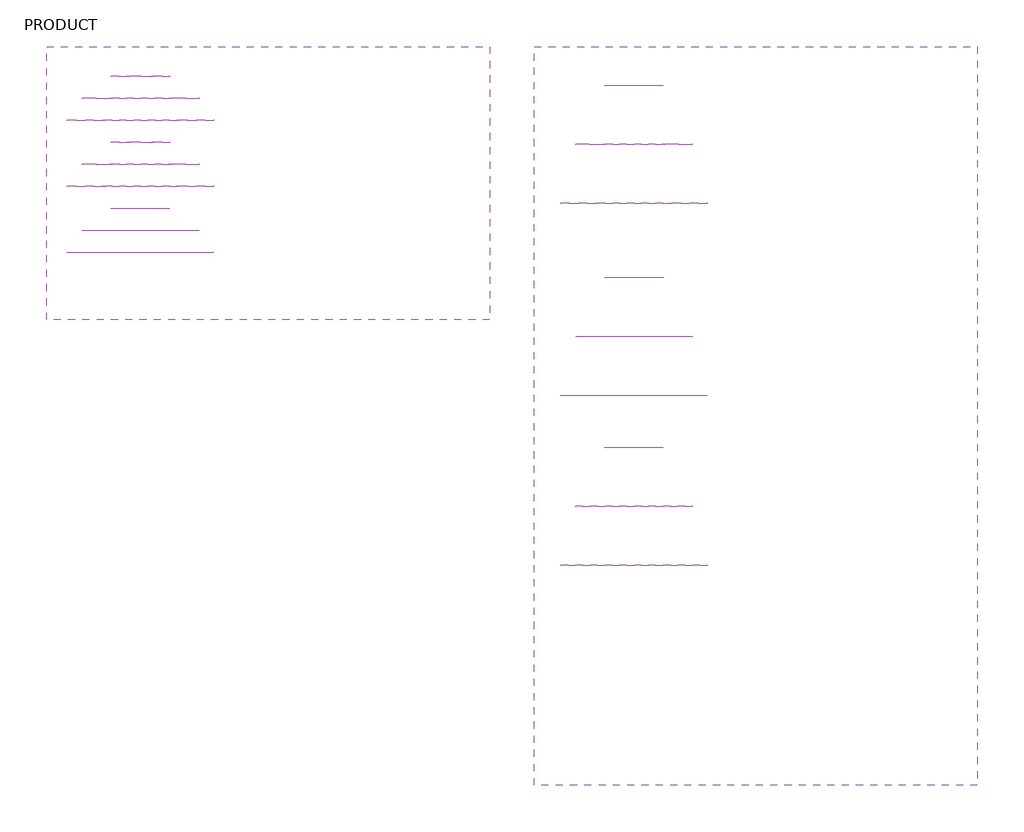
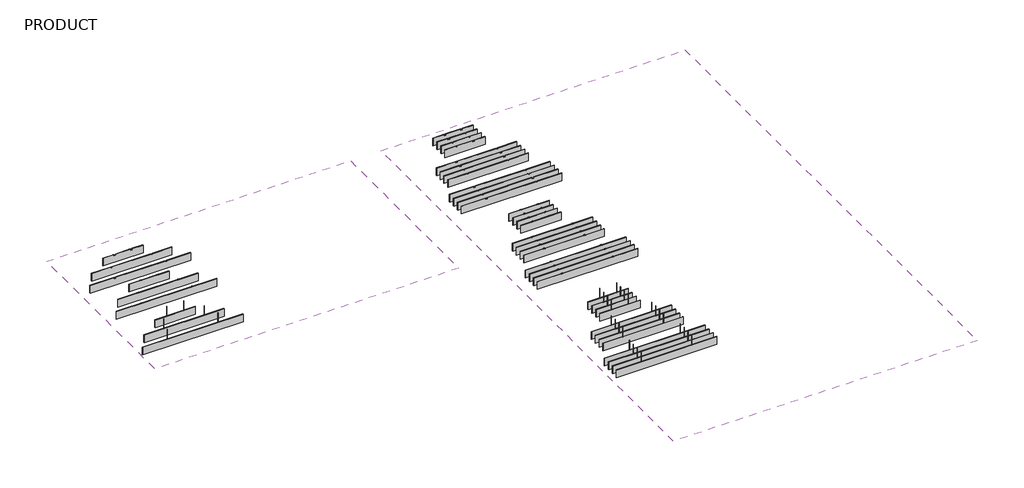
# One storey: 18 proxies, 2 coverings.
"""IFC4 building model written with IfcOpenShell, lengths in millimetres."""

from ifc_helpers import new_model, si_unit, frame, origin, place, context, project, spatial, polyline, outline, extrude, transform, mapped, element, save
from components import specialty_equipment_96a710cc, specialty_equipment_ee209cf9, specialty_equipment_30a90bc0, specialty_equipment_bbb3698f, specialty_equipment_b684998a, specialty_equipment_2d2efd5c, specialty_equipment_c981e245, specialty_equipment_1269500b, specialty_equipment_be68d2b4, specialty_equipment_922f5293, specialty_equipment_3e05f064, specialty_equipment_4f9f5038, proxy_0f068731, proxy_e42677c3, proxy_46c5f0b4, proxy_e3adda97, proxy_471073de, proxy_cfbe7a46

model = new_model("IFC4")

# Units and contexts
model_context = context("Model", 3, world=origin())
ifc_project = project(units=[si_unit("LENGTHUNIT", "METRE", prefix="MILLI")], contexts=[model_context])

# Site, building, storey
site = spatial("IfcSite", under=ifc_project)
building = spatial("IfcBuilding", under=site)
storey = spatial("IfcBuildingStorey", under=building, Name="PRODUCT", Elevation=0.0)

# Proxies
placement = place(None, origin())
specialty_equipment_shape = specialty_equipment_96a710cc(model_context)
element("IfcBuildingElementProxy", 1, Name="SE_TIMBER BAFFLE_SINGLE_FB_TURF : 119\" - FELTLOCK", ObjectType="SE_TIMBER BAFFLE_SINGLE_FB_TURF : 119\" - FELTLOCK", at=placement, inside=storey, context=model_context, shape_type="MappedRepresentation", body=[
    mapped(specialty_equipment_shape, transform((-16787.9567466, 15606.4842447, 3048.0), x_axis=(1.0, 0.0, 0.0), y_axis=(0.0, -1.0, 0.0), z_axis=(0.0, 0.0, -1.0))),
])
specialty_equipment_2_shape = specialty_equipment_ee209cf9(model_context)
element("IfcBuildingElementProxy", 2, Name="SE_TIMBER BAFFLE_SINGLE_FB_TURF : 95\" - FELTLOCK", ObjectType="SE_TIMBER BAFFLE_SINGLE_FB_TURF : 95\" - FELTLOCK", at=placement, inside=storey, context=model_context, shape_type="MappedRepresentation", body=[
    mapped(specialty_equipment_2_shape, transform((-16787.9567466, 16060.6892056, 3048.0), x_axis=(1.0, 0.0, 0.0), y_axis=(0.0, -1.0, 0.0), z_axis=(0.0, 0.0, -1.0))),
])
specialty_equipment_3_shape = specialty_equipment_30a90bc0(model_context)
element("IfcBuildingElementProxy", 3, Name="SE_TIMBER BAFFLE_SINGLE_FB_TURF : 47.5\" - FELTLOCK", ObjectType="SE_TIMBER BAFFLE_SINGLE_FB_TURF : 47.5\" - FELTLOCK", at=placement, inside=storey, context=model_context, shape_type="MappedRepresentation", body=[
    mapped(specialty_equipment_3_shape, transform((-16787.9567466, 16514.8941665, 3048.0), x_axis=(1.0, 0.0, 0.0), y_axis=(0.0, -1.0, 0.0), z_axis=(0.0, 0.0, -1.0))),
])
specialty_equipment_4_shape = specialty_equipment_bbb3698f(model_context)
element("IfcBuildingElementProxy", 4, Name="SE_TIMBER BAFFLE_SINGLE_FB_TURF : 119\" - GRIDLOCK", ObjectType="SE_TIMBER BAFFLE_SINGLE_FB_TURF : 119\" - GRIDLOCK", at=placement, inside=storey, context=model_context, shape_type="MappedRepresentation", body=[
    mapped(specialty_equipment_4_shape, transform((-16787.9567466, 14243.8693621, 3048.0), x_axis=(1.0, 0.0, 0.0), y_axis=(0.0, -1.0, 0.0), z_axis=(0.0, 0.0, -1.0))),
])
specialty_equipment_5_shape = specialty_equipment_b684998a(model_context)
element("IfcBuildingElementProxy", 5, Name="SE_TIMBER BAFFLE_SINGLE_FB_TURF : 95\" - GRIDLOCK", ObjectType="SE_TIMBER BAFFLE_SINGLE_FB_TURF : 95\" - GRIDLOCK", at=placement, inside=storey, context=model_context, shape_type="MappedRepresentation", body=[
    mapped(specialty_equipment_5_shape, transform((-16787.9567466, 14698.074323, 3048.0), x_axis=(1.0, 0.0, 0.0), y_axis=(0.0, -1.0, 0.0), z_axis=(0.0, 0.0, -1.0))),
])
specialty_equipment_6_shape = specialty_equipment_2d2efd5c(model_context)
element("IfcBuildingElementProxy", 6, Name="SE_TIMBER BAFFLE_SINGLE_FB_TURF : 47.5\" - GRIDLOCK", ObjectType="SE_TIMBER BAFFLE_SINGLE_FB_TURF : 47.5\" - GRIDLOCK", at=placement, inside=storey, context=model_context, shape_type="MappedRepresentation", body=[
    mapped(specialty_equipment_6_shape, transform((-16787.9567466, 15152.2792838, 3048.0), x_axis=(1.0, 0.0, 0.0), y_axis=(0.0, -1.0, 0.0), z_axis=(0.0, 0.0, -1.0))),
])
specialty_equipment_7_shape = specialty_equipment_c981e245(model_context)
element("IfcBuildingElementProxy", 7, Name="SE_TIMBER BAFFLE_MULTI-SYSTEM_FB_TURF : 119\" - FELTLOCK", ObjectType="SE_TIMBER BAFFLE_MULTI-SYSTEM_FB_TURF : 119\" - FELTLOCK", at=placement, inside=storey, context=model_context, shape_type="MappedRepresentation", body=[
    mapped(specialty_equipment_7_shape, transform((-6612.6834684, 14503.8594655, 3048.0), x_axis=(1.0, 0.0, 0.0), y_axis=(0.0, -1.0, 0.0), z_axis=(0.0, 0.0, -1.0))),
])
specialty_equipment_8_shape = specialty_equipment_1269500b(model_context)
element("IfcBuildingElementProxy", 8, Name="SE_TIMBER BAFFLE_MULTI-SYSTEM_FB_TURF : 95\" - FELTLOCK", ObjectType="SE_TIMBER BAFFLE_MULTI-SYSTEM_FB_TURF : 95\" - FELTLOCK", at=placement, inside=storey, context=model_context, shape_type="MappedRepresentation", body=[
    mapped(specialty_equipment_8_shape, transform((-6612.6834684, 15720.0644263, 3048.0), x_axis=(1.0, 0.0, 0.0), y_axis=(0.0, -1.0, 0.0), z_axis=(0.0, 0.0, -1.0))),
])
specialty_equipment_9_shape = specialty_equipment_be68d2b4(model_context)
element("IfcBuildingElementProxy", 9, Name="SE_TIMBER BAFFLE_MULTI-SYSTEM_FB_TURF : 47.5\" - FELTLOCK", ObjectType="SE_TIMBER BAFFLE_MULTI-SYSTEM_FB_TURF : 47.5\" - FELTLOCK", at=placement, inside=storey, context=model_context, shape_type="MappedRepresentation", body=[
    mapped(specialty_equipment_9_shape, transform((-6612.6834684, 16936.2693872, 3048.0), x_axis=(1.0, 0.0, 0.0), y_axis=(0.0, -1.0, 0.0), z_axis=(0.0, 0.0, -1.0))),
])
specialty_equipment_10_shape = specialty_equipment_922f5293(model_context)
element("IfcBuildingElementProxy", 10, Name="SE_TIMBER BAFFLE_MULTI-SYSTEM_FB_TURF : 119\" - GRIDLOCK", ObjectType="SE_TIMBER BAFFLE_MULTI-SYSTEM_FB_TURF : 119\" - GRIDLOCK", at=placement, inside=storey, context=model_context, shape_type="MappedRepresentation", body=[
    mapped(specialty_equipment_10_shape, transform((-6612.6834684, 10541.4594655, 3048.0), x_axis=(1.0, 0.0, 0.0), y_axis=(0.0, -1.0, 0.0), z_axis=(0.0, 0.0, -1.0))),
])
specialty_equipment_11_shape = specialty_equipment_3e05f064(model_context)
element("IfcBuildingElementProxy", 11, Name="SE_TIMBER BAFFLE_MULTI-SYSTEM_FB_TURF : 95\" - GRIDLOCK", ObjectType="SE_TIMBER BAFFLE_MULTI-SYSTEM_FB_TURF : 95\" - GRIDLOCK", at=placement, inside=storey, context=model_context, shape_type="MappedRepresentation", body=[
    mapped(specialty_equipment_11_shape, transform((-6612.6834684, 11757.6644263, 3048.0), x_axis=(1.0, 0.0, 0.0), y_axis=(0.0, -1.0, 0.0), z_axis=(0.0, 0.0, -1.0))),
])
specialty_equipment_12_shape = specialty_equipment_4f9f5038(model_context)
element("IfcBuildingElementProxy", 12, Name="SE_TIMBER BAFFLE_MULTI-SYSTEM_FB_TURF : 47.5\" - GRIDLOCK", ObjectType="SE_TIMBER BAFFLE_MULTI-SYSTEM_FB_TURF : 47.5\" - GRIDLOCK", at=placement, inside=storey, context=model_context, shape_type="MappedRepresentation", body=[
    mapped(specialty_equipment_12_shape, transform((-6612.6834684, 12973.8693872, 3048.0), x_axis=(1.0, 0.0, 0.0), y_axis=(0.0, -1.0, 0.0), z_axis=(0.0, 0.0, -1.0))),
])
proxy_shape = proxy_0f068731(model_context)
element("IfcBuildingElementProxy", 13, Name="SE_TIMBER BAFFLE_MULTI-SYSTEM_FB_TURF : 119\" - CABLE SUSPENSION", ObjectType="SE_TIMBER BAFFLE_MULTI-SYSTEM_FB_TURF : 119\" - CABLE SUSPENSION", at=placement, inside=storey, context=model_context, shape_type="MappedRepresentation", body=[
    mapped(proxy_shape, transform((-6612.6834684, 6426.6594655, 3048.0), x_axis=(1.0, 0.0, 0.0), y_axis=(0.0, -1.0, 0.0), z_axis=(0.0, 0.0, -1.0))),
])
proxy_2_shape = proxy_e42677c3(model_context)
element("IfcBuildingElementProxy", 14, Name="SE_TIMBER BAFFLE_SINGLE_FB_TURF : 119\" - CABLE SUSPENSION", ObjectType="SE_TIMBER BAFFLE_SINGLE_FB_TURF : 119\" - CABLE SUSPENSION", at=placement, inside=storey, context=model_context, shape_type="MappedRepresentation", body=[
    mapped(proxy_2_shape, transform((-16787.9567466, 12881.2544795, 3048.0), x_axis=(1.0, 0.0, 0.0), y_axis=(0.0, -1.0, 0.0), z_axis=(0.0, 0.0, -1.0))),
])
proxy_3_shape = proxy_46c5f0b4(model_context)
element("IfcBuildingElementProxy", 15, Name="SE_TIMBER BAFFLE_MULTI-SYSTEM_FB_TURF : 47.5\" - CABLE SUSPENSION", ObjectType="SE_TIMBER BAFFLE_MULTI-SYSTEM_FB_TURF : 47.5\" - CABLE SUSPENSION", at=placement, inside=storey, context=model_context, shape_type="MappedRepresentation", body=[
    mapped(proxy_3_shape, transform((-6612.6834684, 8859.0693872, 3048.0), x_axis=(1.0, 0.0, 0.0), y_axis=(0.0, -1.0, 0.0), z_axis=(0.0, 0.0, -1.0))),
])
proxy_4_shape = proxy_e3adda97(model_context)
element("IfcBuildingElementProxy", 16, Name="SE_TIMBER BAFFLE_SINGLE_FB_TURF : 47.5\" - CABLE SUSPENSION", ObjectType="SE_TIMBER BAFFLE_SINGLE_FB_TURF : 47.5\" - CABLE SUSPENSION", at=placement, inside=storey, context=model_context, shape_type="MappedRepresentation", body=[
    mapped(proxy_4_shape, transform((-16787.9567466, 13789.6644012, 3048.0), x_axis=(1.0, 0.0, 0.0), y_axis=(0.0, -1.0, 0.0), z_axis=(0.0, 0.0, -1.0))),
])
proxy_5_shape = proxy_471073de(model_context)
element("IfcBuildingElementProxy", 17, Name="SE_TIMBER BAFFLE_MULTI-SYSTEM_FB_TURF : 95\" - CABLE SUSPENSION", ObjectType="SE_TIMBER BAFFLE_MULTI-SYSTEM_FB_TURF : 95\" - CABLE SUSPENSION", at=placement, inside=storey, context=model_context, shape_type="MappedRepresentation", body=[
    mapped(proxy_5_shape, transform((-6612.6834684, 7642.8644263, 3048.0), x_axis=(1.0, 0.0, 0.0), y_axis=(0.0, -1.0, 0.0), z_axis=(0.0, 0.0, -1.0))),
])
proxy_6_shape = proxy_cfbe7a46(model_context)
element("IfcBuildingElementProxy", 18, Name="SE_TIMBER BAFFLE_SINGLE_FB_TURF : 95\" - CABLE SUSPENSION", ObjectType="SE_TIMBER BAFFLE_SINGLE_FB_TURF : 95\" - CABLE SUSPENSION", at=placement, inside=storey, context=model_context, shape_type="MappedRepresentation", body=[
    mapped(proxy_6_shape, transform((-16787.9567466, 13335.4594404, 3048.0), x_axis=(1.0, 0.0, 0.0), y_axis=(0.0, -1.0, 0.0), z_axis=(0.0, 0.0, -1.0))),
])

# Coverings
element("IfcCovering", 19, ObjectType="GWB on Mtl. Stud", at=placement, inside=storey, context=model_context, shape_type="SweptSolid", body=[
    extrude(outline(polyline([(-9586.615086, 17129.1241853), (-9586.615086, 11490.3241853), (-18730.615086, 11490.3241853), (-18730.615086, 17129.1241853), (-9586.615086, 17129.1241853)])), frame((0.0, 0.0, 3048.0), z_axis=(0.0, 0.0, 1.0), x_axis=(1.0, 0.0, 0.0)), (0.0, 0.0, 1.0), 107.95),
])
element("IfcCovering", 20, ObjectType="GWB on Mtl. Stud", at=placement, inside=storey, context=model_context, shape_type="SweptSolid", body=[
    extrude(outline(polyline([(471.784914, 17129.1241853), (471.784914, 1889.1241853), (-8672.215086, 1889.1241853), (-8672.215086, 17129.1241853), (471.784914, 17129.1241853)])), frame((0.0, 0.0, 3048.0), z_axis=(0.0, 0.0, 1.0), x_axis=(1.0, 0.0, 0.0)), (0.0, 0.0, 1.0), 107.95),
])

save(model, "model.ifc")
